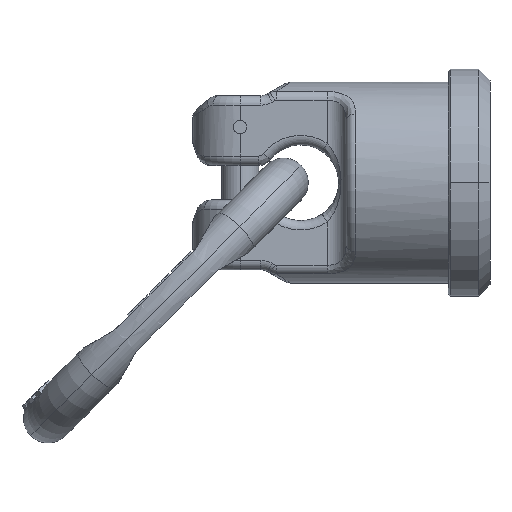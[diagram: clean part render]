
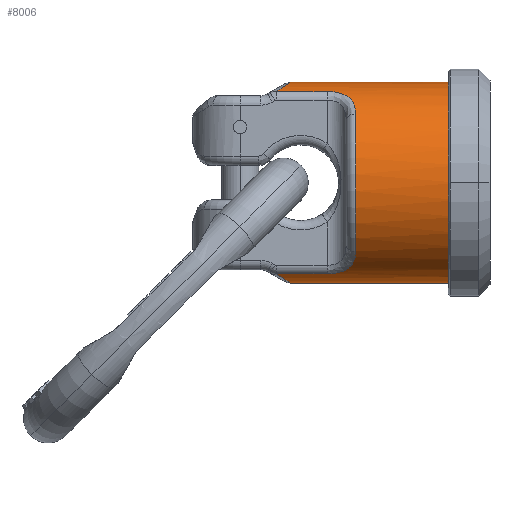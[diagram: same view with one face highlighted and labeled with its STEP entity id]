
A CAD part, front view. The second image highlights one B-rep face of the part: STEP entity #8006.
In plain terms, the highlighted cylindrical face has radius 26.5 mm (diameter 53 mm), a partial arc.
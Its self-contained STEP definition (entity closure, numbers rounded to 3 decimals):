
#6=CARTESIAN_POINT('',(70.5,0.,0.));
#7=DIRECTION('',(1.,0.,0.));
#8=DIRECTION('',(0.,0.,1.));
#9=AXIS2_PLACEMENT_3D('',#6,#7,#8);
#60=DIRECTION('',(1.,0.,0.));
#61=VECTOR('',#60,44.696);
#62=CARTESIAN_POINT('',(25.804,0.,
-26.5));
#63=LINE('',#62,#61);
#2384=CARTESIAN_POINT('',(35.5,-11.042,24.09));
#2385=CARTESIAN_POINT('',(35.908,-11.042,24.09));
#2386=CARTESIAN_POINT('',(36.718,-11.114,24.057));
#2387=CARTESIAN_POINT('',(37.934,-11.449,23.901));
#2388=CARTESIAN_POINT('',(39.082,-12.003,23.63));
#2389=CARTESIAN_POINT('',(40.155,-12.778,23.223));
#2390=CARTESIAN_POINT('',(41.115,-13.768,22.654));
#2391=CARTESIAN_POINT('',(41.918,-14.953,21.896));
#2392=CARTESIAN_POINT('',(42.547,-16.335,20.897));
#2393=CARTESIAN_POINT('',(42.938,-17.93,19.55));
#2394=CARTESIAN_POINT('',(43.,-18.866,18.622));
#2395=CARTESIAN_POINT('',(43.,-19.323,18.135));
#2397=DIRECTION('',(1.,0.,0.));
#2398=VECTOR('',#2397,13.398);
#2399=CARTESIAN_POINT('',(22.102,-11.042,24.09));
#2400=LINE('',#2399,#2398);
#2401=CARTESIAN_POINT('',(25.804,0.,
26.5));
#2402=CARTESIAN_POINT('',(25.804,-0.587,
26.5));
#2403=CARTESIAN_POINT('',(25.743,-1.763,26.46));
#2404=CARTESIAN_POINT('',(25.481,-3.484,26.29));
#2405=CARTESIAN_POINT('',(25.023,-5.278,25.991));
#2406=CARTESIAN_POINT('',(24.334,-7.15,25.543));
#2407=CARTESIAN_POINT('',(23.374,-9.099,24.918));
#2408=CARTESIAN_POINT('',(22.558,-10.395,24.386));
#2409=CARTESIAN_POINT('',(22.102,-11.042,24.09));
#2411=DIRECTION('',(1.,0.,0.));
#2412=VECTOR('',#2411,44.696);
#2413=CARTESIAN_POINT('',(25.804,0.,
26.5));
#2414=LINE('',#2413,#2412);
#2415=CARTESIAN_POINT('',(22.102,-11.042,
-24.09));
#2416=CARTESIAN_POINT('',(22.536,-10.425,
-24.373));
#2417=CARTESIAN_POINT('',(23.316,-9.192,
-24.88));
#2418=CARTESIAN_POINT('',(24.232,-7.373,
-25.476));
#2419=CARTESIAN_POINT('',(24.915,-5.601,
-25.922));
#2420=CARTESIAN_POINT('',(25.403,-3.855,
-26.239));
#2421=CARTESIAN_POINT('',(25.727,-1.977,
-26.45));
#2422=CARTESIAN_POINT('',(25.804,-0.669,
-26.5));
#2423=CARTESIAN_POINT('',(25.804,0.,
-26.5));
#2425=DIRECTION('',(-1.,0.,0.));
#2426=VECTOR('',#2425,13.398);
#2427=CARTESIAN_POINT('',(35.5,-11.042,
-24.09));
#2428=LINE('',#2427,#2426);
#2429=CARTESIAN_POINT('',(43.,-19.323,-18.135));
#2430=CARTESIAN_POINT('',(43.,-18.866,
-18.622));
#2431=CARTESIAN_POINT('',(42.938,-17.93,
-19.55));
#2432=CARTESIAN_POINT('',(42.547,-16.335,
-20.897));
#2433=CARTESIAN_POINT('',(41.918,-14.953,
-21.896));
#2434=CARTESIAN_POINT('',(41.115,-13.768,
-22.655));
#2435=CARTESIAN_POINT('',(40.155,-12.777,
-23.223));
#2436=CARTESIAN_POINT('',(39.082,-12.003,
-23.63));
#2437=CARTESIAN_POINT('',(37.934,-11.449,
-23.901));
#2438=CARTESIAN_POINT('',(36.718,-11.114,
-24.057));
#2439=CARTESIAN_POINT('',(35.908,-11.042,
-24.09));
#2440=CARTESIAN_POINT('',(35.5,-11.042,
-24.09));
#2442=CARTESIAN_POINT('',(43.,0.,0.));
#2443=DIRECTION('',(1.,0.,0.));
#2444=DIRECTION('',(0.,-0.729,0.684));
#2445=AXIS2_PLACEMENT_3D('',#2442,#2443,#2444);
#4585=CARTESIAN_POINT('',(70.5,0.,-26.5));
#4586=CARTESIAN_POINT('',(70.5,0.,26.5));
#4587=VERTEX_POINT('',#4585);
#4588=VERTEX_POINT('',#4586);
#4589=CARTESIAN_POINT('',(25.804,0.,
-26.5));
#4590=VERTEX_POINT('',#4589);
#4591=CARTESIAN_POINT('',(25.804,0.,
26.5));
#4592=VERTEX_POINT('',#4591);
#4599=VERTEX_POINT('',#2384);
#4600=VERTEX_POINT('',#2395);
#4601=CARTESIAN_POINT('',(22.102,-11.042,24.09));
#4602=VERTEX_POINT('',#4601);
#4625=VERTEX_POINT('',#2429);
#4626=VERTEX_POINT('',#2440);
#4631=CARTESIAN_POINT('',(22.102,-11.042,
-24.09));
#4632=VERTEX_POINT('',#4631);
#7984=CARTESIAN_POINT('',(0.,0.,0.));
#7985=DIRECTION('',(1.,0.,0.));
#7986=DIRECTION('',(0.,0.,-1.));
#7987=AXIS2_PLACEMENT_3D('',#7984,#7985,#7986);
#7988=CYLINDRICAL_SURFACE('',#7987,26.5);
#7989=ORIENTED_EDGE('',*,*,#7847,.F.);
#7990=ORIENTED_EDGE('',*,*,#7859,.F.);
#7992=ORIENTED_EDGE('',*,*,#7991,.F.);
#7993=ORIENTED_EDGE('',*,*,#5489,.T.);
#7994=ORIENTED_EDGE('',*,*,#5464,.T.);
#7995=ORIENTED_EDGE('',*,*,#5486,.F.);
#7997=ORIENTED_EDGE('',*,*,#7996,.F.);
#7999=ORIENTED_EDGE('',*,*,#7998,.F.);
#8001=ORIENTED_EDGE('',*,*,#8000,.F.);
#8003=ORIENTED_EDGE('',*,*,#8002,.F.);
#8004=EDGE_LOOP('',(#7989,#7990,#7992,#7993,#7994,#7995,#7997,#7999,#8001,
#8003));
#8005=FACE_OUTER_BOUND('',#8004,.F.);
#8006=ADVANCED_FACE('',(#8005),#7988,.T.);
#10=CIRCLE('',#9,26.5);
#2396=B_SPLINE_CURVE_WITH_KNOTS('',3,(#2384,#2385,#2386,#2387,#2388,#2389,#2390,
#2391,#2392,#2393,#2394,#2395),.UNSPECIFIED.,.F.,.F.,(4,1,1,1,1,1,1,1,1,4),
(0.,0.111,0.222,0.333,0.444,
0.556,0.667,0.778,0.889,1.),
.UNSPECIFIED.);
#2410=B_SPLINE_CURVE_WITH_KNOTS('',3,(#2401,#2402,#2403,#2404,#2405,#2406,#2407,
#2408,#2409),.UNSPECIFIED.,.F.,.F.,(4,1,1,1,1,1,4),(0.,0.167,
0.333,0.5,0.667,0.833,1.),
.UNSPECIFIED.);
#2424=B_SPLINE_CURVE_WITH_KNOTS('',3,(#2415,#2416,#2417,#2418,#2419,#2420,#2421,
#2422,#2423),.UNSPECIFIED.,.F.,.F.,(4,1,1,1,1,1,4),(0.,0.167,
0.333,0.5,0.667,0.833,1.),
.UNSPECIFIED.);
#2441=B_SPLINE_CURVE_WITH_KNOTS('',3,(#2429,#2430,#2431,#2432,#2433,#2434,#2435,
#2436,#2437,#2438,#2439,#2440),.UNSPECIFIED.,.F.,.F.,(4,1,1,1,1,1,1,1,1,4),
(0.,0.111,0.222,0.333,0.444,
0.556,0.667,0.778,0.889,1.),
.UNSPECIFIED.);
#2446=CIRCLE('',#2445,26.5);
#5464=EDGE_CURVE('',#4588,#4587,#10,.T.);
#5486=EDGE_CURVE('',#4590,#4587,#63,.T.);
#5489=EDGE_CURVE('',#4592,#4588,#2414,.T.);
#7847=EDGE_CURVE('',#4599,#4600,#2396,.T.);
#7859=EDGE_CURVE('',#4602,#4599,#2400,.T.);
#7991=EDGE_CURVE('',#4592,#4602,#2410,.T.);
#7996=EDGE_CURVE('',#4632,#4590,#2424,.T.);
#7998=EDGE_CURVE('',#4626,#4632,#2428,.T.);
#8000=EDGE_CURVE('',#4625,#4626,#2441,.T.);
#8002=EDGE_CURVE('',#4600,#4625,#2446,.T.);
